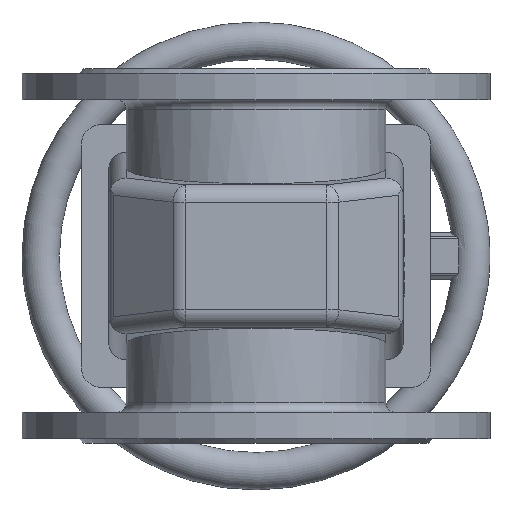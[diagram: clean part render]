
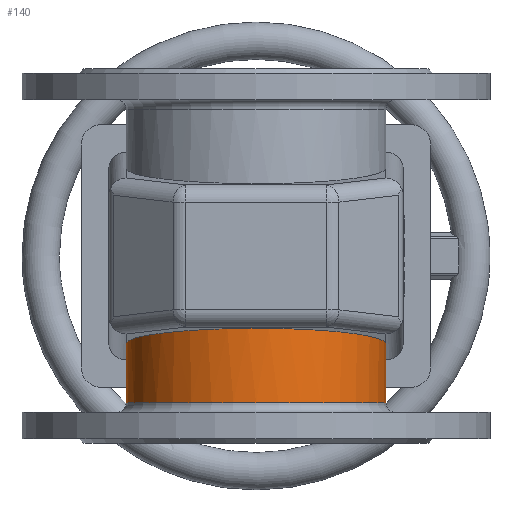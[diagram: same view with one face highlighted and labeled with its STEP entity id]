
A CAD part, front view. The second image highlights one B-rep face of the part: STEP entity #140.
In plain terms, the highlighted cylindrical face has radius 69.375 mm (diameter 138.75 mm), a full revolution.
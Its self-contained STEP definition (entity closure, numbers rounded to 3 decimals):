
#140=ADVANCED_FACE('',(#3261,#3263),#3265,.T.);
#3261=FACE_BOUND('',#3262,.T.);
#3262=EDGE_LOOP('',(#9339,#9340));
#3263=FACE_OUTER_BOUND('',#3264,.T.);
#3264=EDGE_LOOP('',(#9341));
#3265=CYLINDRICAL_SURFACE('',#3266,69.375);
#3266=AXIS2_PLACEMENT_3D('',#3267,#3268,#3269);
#3267=CARTESIAN_POINT('',(0.,0.,74.));
#3268=DIRECTION('',(0.,0.,-1.));
#3269=DIRECTION('',(-1.,0.,0.));
#9339=ORIENTED_EDGE('',*,*,#11055,.T.);
#9340=ORIENTED_EDGE('',*,*,#11056,.T.);
#9341=ORIENTED_EDGE('',*,*,#11057,.F.);
#11055=EDGE_CURVE('',#11861,#11862,#11863,.T.);
#11056=EDGE_CURVE('',#11862,#11861,#11864,.T.);
#11057=EDGE_CURVE('',#11865,#11865,#11866,.T.);
#11861=VERTEX_POINT('',#13223);
#11862=VERTEX_POINT('',#13224);
#11863=(BOUNDED_CURVE()B_SPLINE_CURVE(3,
(#13225,#13226,#13227,#13228),
.UNSPECIFIED.,.F.,.F.)B_SPLINE_CURVE_WITH_KNOTS((4,4),
(0.,1.),
.UNSPECIFIED.)CURVE()GEOMETRIC_REPRESENTATION_ITEM()RATIONAL_B_SPLINE_CURVE((1.,
0.333,0.333,1.))REPRESENTATION_ITEM(''));
#11864=(BOUNDED_CURVE()B_SPLINE_CURVE(3,
(#13229,#13230,#13231,#13232),
.UNSPECIFIED.,.F.,.F.)B_SPLINE_CURVE_WITH_KNOTS((4,4),
(0.,1.),
.UNSPECIFIED.)CURVE()GEOMETRIC_REPRESENTATION_ITEM()RATIONAL_B_SPLINE_CURVE((1.,
0.333,0.333,1.))REPRESENTATION_ITEM(''));
#11865=VERTEX_POINT('',#13233);
#11866=CIRCLE('',#13234,69.375);
#13223=CARTESIAN_POINT('',(69.375,0.,-46.794));
#13224=CARTESIAN_POINT('',(-69.375,0.,-46.794));
#13225=CARTESIAN_POINT('',(69.375,0.,-46.794));
#13226=CARTESIAN_POINT('',(69.375,-138.75,-30.471));
#13227=CARTESIAN_POINT('',(-69.375,-138.75,-30.471));
#13228=CARTESIAN_POINT('',(-69.375,0.,-46.794));
#13229=CARTESIAN_POINT('',(-69.375,0.,-46.794));
#13230=CARTESIAN_POINT('',(-69.375,138.75,-63.118));
#13231=CARTESIAN_POINT('',(69.375,138.75,-63.118));
#13232=CARTESIAN_POINT('',(69.375,0.,-46.794));
#13233=CARTESIAN_POINT('',(-69.375,0.,-78.5));
#13234=AXIS2_PLACEMENT_3D('',#13235,#13236,#13237);
#13235=CARTESIAN_POINT('',(0.,0.,-78.5));
#13236=DIRECTION('',(0.,0.,-1.));
#13237=DIRECTION('',(-1.,0.,0.));
